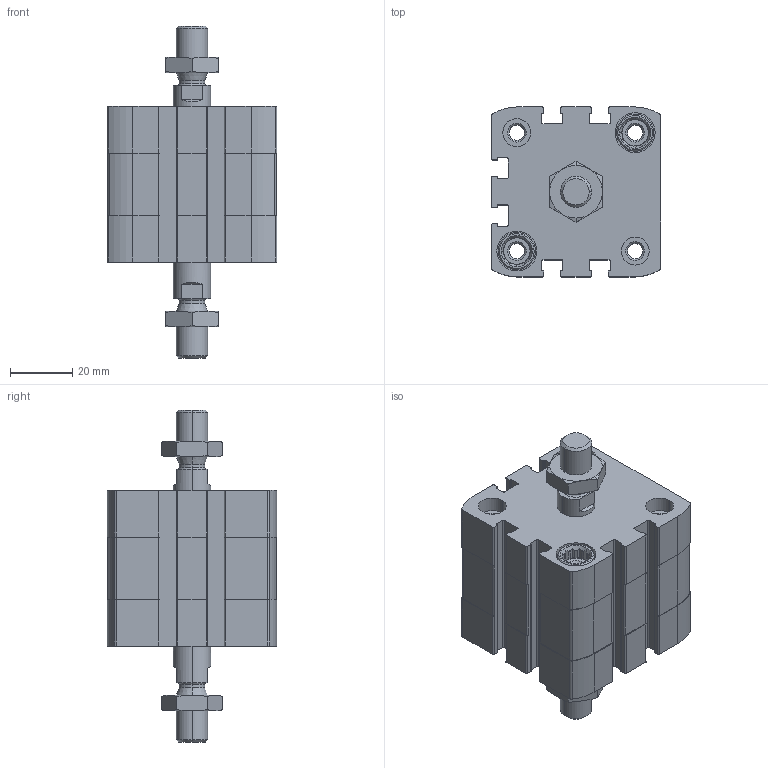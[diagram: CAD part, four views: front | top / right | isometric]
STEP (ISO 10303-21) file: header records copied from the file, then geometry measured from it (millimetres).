
FILE_DESCRIPTION (( 'STEP AP203' ), '1' );
FILE_NAME ('CCN40-5-P.STEP', '2020-06-22T18:50:27', ( '' ), ( '' ), 'SwSTEP 2.0', 'SolidWorks 2019', '' );
FILE_SCHEMA (( 'CONFIG_CONTROL_DESIGN' ));
Length unit declared in the file: millimetre
Products named in the file (1): CCN40-5-P
Bounding box: 54.5 x 54.5 x 106.6 mm (x, y, z)
Volume: 129257.9 mm3; surface area: 40069.4 mm2
Topology: 4 solids, 4 shells, 536 faces, 1416 edges, 920 vertices
Faces by surface type: plane 288, cylinder 180, cone 60, torus 8
Entity records: 17371 total; most frequent: CARTESIAN_POINT 3741, DIRECTION 2898, ORIENTED_EDGE 2832, EDGE_CURVE 1416, AXIS2_PLACEMENT_3D 1069, VERTEX_POINT 920, LINE 760, VECTOR 760
